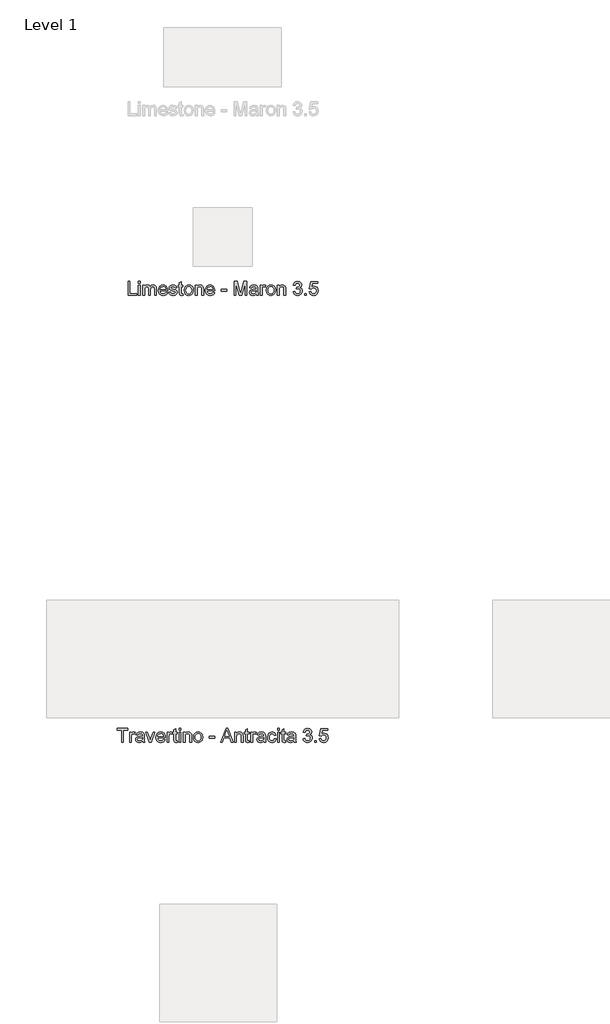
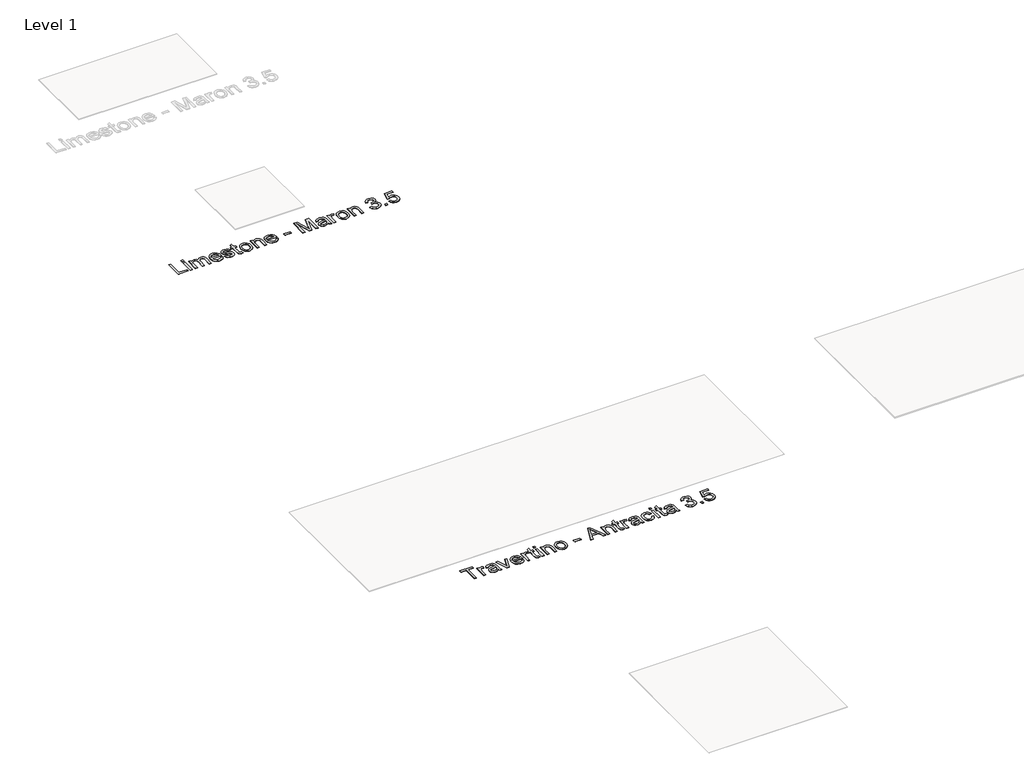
# One storey, part 15 of 80: 2 proxies.
"""IFC4 building model written with IfcOpenShell, lengths in millimetres."""

from ifc_helpers import new_model, si_unit, origin, origin_with_axes, place, context, project, spatial, polyline, outline, extrude, element, save

model = new_model("IFC4")

# Units and contexts
model_context = context("Model", 3, world=origin())
ifc_project = project(units=[si_unit("LENGTHUNIT", "METRE", prefix="MILLI")], contexts=[model_context])

# Site, building, storey
site = spatial("IfcSite", under=ifc_project)
building = spatial("IfcBuilding", under=site)
storey = spatial("IfcBuildingStorey", under=building, Name="Level 1", Elevation=0.0)

# Proxies
placement = place(None, origin())
element("IfcBuildingElementProxy", 1, Name="24\" Arial", ObjectType="24\" Arial", at=placement, inside=storey, context=model_context, shape_type="SweptSolid", body=[
    extrude(outline(polyline([(-27306.7684156, -7628.8780244), (-27306.7684156, -7525.4934091), (-27345.5376464, -7525.4934091), (-27345.5376464, -7510.7241783), (-27253.2299541, -7510.7241783), (-27253.2299541, -7525.4934091), (-27291.9991848, -7525.4934091), (-27291.9991848, -7628.8780244), (-27306.7684156, -7628.8780244)])), origin_with_axes(), (0.0, 0.0, 1.0), 2.0),
    extrude(outline(polyline([(-27238.4607233, -7628.8780244), (-27238.4607233, -7542.1087937), (-27225.5376464, -7542.1087937), (-27225.5376464, -7554.9453321), (-27216.3645694, -7543.1184091), (-27207.1338002, -7540.2626398), (-27192.3068771, -7544.8203321), (-27197.2395694, -7558.0607167), (-27207.6241848, -7555.0318706), (-27215.9751464, -7557.9453321), (-27221.2972617, -7566.0222552), (-27223.6914925, -7583.2722552), (-27223.6914925, -7628.8780244), (-27238.4607233, -7628.8780244)])), origin_with_axes(), (0.0, 0.0, 1.0), 2.0),
    extrude(outline(polyline([(-27127.6914925, -7617.8011014), (-27142.0136079, -7627.8107167), (-27157.8357233, -7630.7241783), (-27170.1782714, -7628.9717744), (-27179.2828387, -7623.7145629), (-27184.8970214, -7615.7313898), (-27186.7684156, -7605.8011014), (-27183.9414925, -7594.1184091), (-27176.5136079, -7585.6376398), (-27166.1722617, -7580.791486), (-27153.3934156, -7578.5703321), (-27127.778031, -7573.4934091), (-27127.6914925, -7570.2049475), (-27131.7588002, -7559.3011014), (-27148.0857233, -7555.0318706), (-27163.028031, -7557.8732167), (-27170.153031, -7567.9549475), (-27184.9222617, -7566.1087937), (-27178.5328387, -7551.6857167), (-27165.6674541, -7543.2337937), (-27146.1818771, -7540.2626398), (-27128.2828387, -7542.8876398), (-27118.1722617, -7549.478986), (-27113.6434156, -7559.5030244), (-27112.9222617, -7572.4261014), (-27112.9222617, -7590.8011014), (-27112.1722617, -7616.4597552), (-27109.2299541, -7628.8780244), (-27123.9991848, -7628.8780244), (-27127.6914925, -7617.8011014)]), holes=[polyline([(-27127.6914925, -7588.2626398), (-27151.5184156, -7592.791486), (-27164.2251464, -7595.1857167), (-27169.9799541, -7599.0799475), (-27171.9991848, -7604.7626398), (-27167.6001464, -7612.7530244), (-27154.6914925, -7615.9549475), (-27139.7491848, -7612.4212937), (-27130.1145694, -7603.8684091), (-27127.778031, -7592.4453321), (-27127.6914925, -7588.2626398)])]), origin_with_axes(), (0.0, 0.0, 1.0), 2.0),
    extrude(outline(polyline([(-27071.3261079, -7628.8780244), (-27101.8453387, -7542.1087937), (-27086.2107233, -7542.1087937), (-27067.7203387, -7594.0895629), (-27062.153031, -7611.5703321), (-27056.7011079, -7595.0703321), (-27038.0953387, -7542.1087937), (-27022.4607233, -7542.1087937), (-27052.6049541, -7628.8780244), (-27071.3261079, -7628.8780244)])), origin_with_axes(), (0.0, 0.0, 1.0), 2.0),
    extrude(outline(polyline([(-26948.7876464, -7603.0318706), (-26934.3068771, -7604.8780244), (-26939.5244252, -7615.7890821), (-26947.8501464, -7623.9453321), (-26959.0965406, -7629.0294667), (-26973.0761079, -7630.7241783), (-26990.4054348, -7627.7998994), (-27003.7395694, -7619.0270629), (-27012.2419733, -7604.9753802), (-27015.0761079, -7586.2145629), (-27012.2131271, -7566.822736), (-27003.6241848, -7552.3203321), (-26990.4703387, -7543.2770629), (-26973.9126464, -7540.2626398), (-26957.8705791, -7543.2698514), (-26945.0520694, -7552.291486), (-26936.6470214, -7566.7650437), (-26933.8453387, -7586.1280244), (-26933.9318771, -7590.1087937), (-27000.3068771, -7590.1087937), (-26997.7503867, -7601.1640821), (-26991.8116848, -7609.291486), (-26983.2407714, -7614.2890821), (-26972.7876464, -7615.9549475), (-26958.3068771, -7612.8684091), (-26948.7876464, -7603.0318706)]), holes=[polyline([(-27000.3068771, -7575.3395629), (-26948.6145694, -7575.3395629), (-26954.528031, -7561.9549475), (-26963.1386079, -7556.7626398), (-26973.9703387, -7555.0318706), (-26992.1578387, -7560.5559091), (-26997.8801944, -7567.0138417), (-27000.3068771, -7575.3395629)])]), origin_with_axes(), (0.0, 0.0, 1.0), 2.0),
    extrude(outline(polyline([(-26919.0761079, -7628.8780244), (-26919.0761079, -7542.1087937), (-26906.153031, -7542.1087937), (-26906.153031, -7554.9453321), (-26896.9799541, -7543.1184091), (-26887.7491848, -7540.2626398), (-26872.9222617, -7544.8203321), (-26877.8549541, -7558.0607167), (-26888.2395694, -7555.0318706), (-26896.590531, -7557.9453321), (-26901.9126464, -7566.0222552), (-26904.3068771, -7583.2722552), (-26904.3068771, -7628.8780244), (-26919.0761079, -7628.8780244)])), origin_with_axes(), (0.0, 0.0, 1.0), 2.0),
    extrude(outline(polyline([(-26832.3068771, -7616.5607167), (-26830.4607233, -7629.3107167), (-26841.5088002, -7630.7241783), (-26853.8838002, -7628.2722552), (-26860.0568771, -7621.8395629), (-26861.8453387, -7605.0799475), (-26861.8453387, -7556.8780244), (-26872.9222617, -7556.8780244), (-26872.9222617, -7542.1087937), (-26861.8453387, -7542.1087937), (-26861.8453387, -7521.0222552), (-26847.0761079, -7512.3395629), (-26847.0761079, -7542.1087937), (-26832.3068771, -7542.1087937), (-26832.3068771, -7556.8780244), (-26847.0761079, -7556.8780244), (-26847.0761079, -7604.6472552), (-26846.2972617, -7612.2626398), (-26843.7732233, -7614.9597552), (-26838.7395694, -7615.9549475), (-26832.3068771, -7616.5607167)])), origin_with_axes(), (0.0, 0.0, 1.0), 2.0),
    extrude(outline(polyline([(-26817.5376464, -7525.4934091), (-26817.5376464, -7510.7241783), (-26802.7684156, -7510.7241783), (-26802.7684156, -7525.4934091), (-26817.5376464, -7525.4934091)])), origin_with_axes(), (0.0, 0.0, 1.0), 2.0),
    extrude(outline(polyline([(-26817.5376464, -7628.8780244), (-26817.5376464, -7542.1087937), (-26802.7684156, -7542.1087937), (-26802.7684156, -7628.8780244), (-26817.5376464, -7628.8780244)])), origin_with_axes(), (0.0, 0.0, 1.0), 2.0),
    extrude(outline(polyline([(-26780.6145694, -7628.8780244), (-26780.6145694, -7542.1087937), (-26765.8453387, -7542.1087937), (-26765.8453387, -7554.2241783), (-26754.5520694, -7543.7530244), (-26739.1338002, -7540.2626398), (-26725.1866848, -7543.0751398), (-26715.6674541, -7550.4597552), (-26711.2395694, -7561.3203321), (-26710.4607233, -7575.5991783), (-26710.4607233, -7628.8780244), (-26725.2299541, -7628.8780244), (-26725.2299541, -7577.5895629), (-26726.9318771, -7564.5222552), (-26732.9463002, -7557.6136014), (-26743.0857233, -7555.0318706), (-26759.1097617, -7560.8299475), (-26764.1614444, -7569.2313898), (-26765.8453387, -7582.8395629), (-26765.8453387, -7628.8780244), (-26780.6145694, -7628.8780244)])), origin_with_axes(), (0.0, 0.0, 1.0), 2.0),
    extrude(outline(polyline([(-26693.8453387, -7585.4934091), (-26690.6506271, -7564.572736), (-26681.0664925, -7549.8684091), (-26669.2251464, -7542.6640821), (-26655.0472617, -7540.2626398), (-26639.5316367, -7543.1869187), (-26627.1386079, -7551.9597552), (-26619.0148098, -7565.8888417), (-26616.3068771, -7584.2818706), (-26621.0953387, -7610.5607167), (-26635.0424541, -7625.4309091), (-26655.0472617, -7630.7241783), (-26670.7503867, -7627.8107167), (-26683.1289925, -7619.0703321), (-26691.1662521, -7604.8491783), (-26693.8453387, -7585.4934091)]), holes=[polyline([(-26679.0761079, -7585.4645629), (-26677.3669733, -7598.8311494), (-26672.2395694, -7608.353986), (-26664.5232233, -7614.0547071), (-26655.0472617, -7615.9549475), (-26645.6145694, -7614.0438898), (-26637.9126464, -7608.3107167), (-26632.7852425, -7598.6616783), (-26631.0761079, -7585.0030244), (-26632.7960598, -7572.025861), (-26637.9559156, -7562.6328321), (-26645.668656, -7556.932111), (-26655.0472617, -7555.0318706), (-26664.5232233, -7556.9248994), (-26672.2395694, -7562.603986), (-26677.3669733, -7572.1051879), (-26679.0761079, -7585.4645629)])]), origin_with_axes(), (0.0, 0.0, 1.0), 2.0),
    extrude(outline(polyline([(-26560.9222617, -7593.8011014), (-26560.9222617, -7579.0318706), (-26514.7684156, -7579.0318706), (-26514.7684156, -7593.8011014), (-26560.9222617, -7593.8011014)])), origin_with_axes(), (0.0, 0.0, 1.0), 2.0),
    extrude(outline(polyline([(-26463.9126464, -7628.8780244), (-26416.7491848, -7510.7241783), (-26404.1722617, -7510.7241783), (-26357.0088002, -7628.8780244), (-26372.6145694, -7628.8780244), (-26386.1434156, -7591.9549475), (-26434.8068771, -7591.9549475), (-26448.3068771, -7628.8780244), (-26463.9126464, -7628.8780244)]), holes=[polyline([(-26429.3838002, -7577.1857167), (-26391.5376464, -7577.1857167), (-26402.1818771, -7548.1376398), (-26410.4607233, -7525.4934091), (-26417.8164925, -7545.5991783), (-26429.3838002, -7577.1857167)])]), origin_with_axes(), (0.0, 0.0, 1.0), 2.0),
    extrude(outline(polyline([(-26343.0761079, -7628.8780244), (-26343.0761079, -7542.1087937), (-26328.3068771, -7542.1087937), (-26328.3068771, -7554.2241783), (-26317.0136079, -7543.7530244), (-26301.5953387, -7540.2626398), (-26287.6482233, -7543.0751398), (-26278.1289925, -7550.4597552), (-26273.7011079, -7561.3203321), (-26272.9222617, -7575.5991783), (-26272.9222617, -7628.8780244), (-26287.6914925, -7628.8780244), (-26287.6914925, -7577.5895629), (-26289.3934156, -7564.5222552), (-26295.4078387, -7557.6136014), (-26305.5472617, -7555.0318706), (-26321.5713002, -7560.8299475), (-26326.6229829, -7569.2313898), (-26328.3068771, -7582.8395629), (-26328.3068771, -7628.8780244), (-26343.0761079, -7628.8780244)])), origin_with_axes(), (0.0, 0.0, 1.0), 2.0),
    extrude(outline(polyline([(-26221.2299541, -7616.5607167), (-26219.3838002, -7629.3107167), (-26230.4318771, -7630.7241783), (-26242.8068771, -7628.2722552), (-26248.9799541, -7621.8395629), (-26250.7684156, -7605.0799475), (-26250.7684156, -7556.8780244), (-26261.8453387, -7556.8780244), (-26261.8453387, -7542.1087937), (-26250.7684156, -7542.1087937), (-26250.7684156, -7521.0222552), (-26235.9991848, -7512.3395629), (-26235.9991848, -7542.1087937), (-26221.2299541, -7542.1087937), (-26221.2299541, -7556.8780244), (-26235.9991848, -7556.8780244), (-26235.9991848, -7604.6472552), (-26235.2203387, -7612.2626398), (-26232.6963002, -7614.9597552), (-26227.6626464, -7615.9549475), (-26221.2299541, -7616.5607167)])), origin_with_axes(), (0.0, 0.0, 1.0), 2.0),
    extrude(outline(polyline([(-26206.4607233, -7628.8780244), (-26206.4607233, -7542.1087937), (-26193.5376464, -7542.1087937), (-26193.5376464, -7554.9453321), (-26184.3645694, -7543.1184091), (-26175.1338002, -7540.2626398), (-26160.3068771, -7544.8203321), (-26165.2395694, -7558.0607167), (-26175.6241848, -7555.0318706), (-26183.9751464, -7557.9453321), (-26189.2972617, -7566.0222552), (-26191.6914925, -7583.2722552), (-26191.6914925, -7628.8780244), (-26206.4607233, -7628.8780244)])), origin_with_axes(), (0.0, 0.0, 1.0), 2.0),
    extrude(outline(polyline([(-26095.6914925, -7617.8011014), (-26110.0136079, -7627.8107167), (-26125.8357233, -7630.7241783), (-26138.1782714, -7628.9717744), (-26147.2828387, -7623.7145629), (-26152.8970214, -7615.7313898), (-26154.7684156, -7605.8011014), (-26151.9414925, -7594.1184091), (-26144.5136079, -7585.6376398), (-26134.1722617, -7580.791486), (-26121.3934156, -7578.5703321), (-26095.778031, -7573.4934091), (-26095.6914925, -7570.2049475), (-26099.7588002, -7559.3011014), (-26116.0857233, -7555.0318706), (-26131.028031, -7557.8732167), (-26138.153031, -7567.9549475), (-26152.9222617, -7566.1087937), (-26146.5328387, -7551.6857167), (-26133.6674541, -7543.2337937), (-26114.1818771, -7540.2626398), (-26096.2828387, -7542.8876398), (-26086.1722617, -7549.478986), (-26081.6434156, -7559.5030244), (-26080.9222617, -7572.4261014), (-26080.9222617, -7590.8011014), (-26080.1722617, -7616.4597552), (-26077.2299541, -7628.8780244), (-26091.9991848, -7628.8780244), (-26095.6914925, -7617.8011014)]), holes=[polyline([(-26095.6914925, -7588.2626398), (-26119.5184156, -7592.791486), (-26132.2251464, -7595.1857167), (-26137.9799541, -7599.0799475), (-26139.9991848, -7604.7626398), (-26135.6001464, -7612.7530244), (-26122.6914925, -7615.9549475), (-26107.7491848, -7612.4212937), (-26098.1145694, -7603.8684091), (-26095.778031, -7592.4453321), (-26095.6914925, -7588.2626398)])]), origin_with_axes(), (0.0, 0.0, 1.0), 2.0),
    extrude(outline(polyline([(-26005.2299541, -7597.4934091), (-25990.4607233, -7599.3395629), (-25994.5785117, -7612.4753802), (-26002.3164925, -7622.4020629), (-26012.9463002, -7628.6436494), (-26025.7395694, -7630.7241783), (-26041.449906, -7627.8215341), (-26053.7347617, -7619.1136014), (-26061.6638483, -7604.9825917), (-26064.3068771, -7585.8107167), (-26059.7924541, -7561.2770629), (-26054.0953387, -7552.0787456), (-26046.0328387, -7545.5126398), (-26025.9414925, -7540.2626398), (-26013.4619252, -7542.0655244), (-26003.4847617, -7547.4741783), (-25996.3273098, -7556.2001398), (-25992.3068771, -7567.9549475), (-26007.0761079, -7569.8011014), (-26013.9270694, -7558.7386014), (-26025.8261079, -7555.0318706), (-26035.3705791, -7556.8563898), (-26042.9463002, -7562.3299475), (-26047.8898098, -7571.7482167), (-26049.5376464, -7585.4068706), (-26047.9258675, -7599.2494187), (-26043.090531, -7608.7001398), (-26035.6518291, -7614.1412456), (-26026.2299541, -7615.9549475), (-26012.3116848, -7611.4261014), (-26005.2299541, -7597.4934091)])), origin_with_axes(), (0.0, 0.0, 1.0), 2.0),
    extrude(outline(polyline([(-25977.5376464, -7525.4934091), (-25977.5376464, -7510.7241783), (-25962.7684156, -7510.7241783), (-25962.7684156, -7525.4934091), (-25977.5376464, -7525.4934091)])), origin_with_axes(), (0.0, 0.0, 1.0), 2.0),
    extrude(outline(polyline([(-25977.5376464, -7628.8780244), (-25977.5376464, -7542.1087937), (-25962.7684156, -7542.1087937), (-25962.7684156, -7628.8780244), (-25977.5376464, -7628.8780244)])), origin_with_axes(), (0.0, 0.0, 1.0), 2.0),
    extrude(outline(polyline([(-25909.2299541, -7616.5607167), (-25907.3838002, -7629.3107167), (-25918.4318771, -7630.7241783), (-25930.8068771, -7628.2722552), (-25936.9799541, -7621.8395629), (-25938.7684156, -7605.0799475), (-25938.7684156, -7556.8780244), (-25949.8453387, -7556.8780244), (-25949.8453387, -7542.1087937), (-25938.7684156, -7542.1087937), (-25938.7684156, -7521.0222552), (-25923.9991848, -7512.3395629), (-25923.9991848, -7542.1087937), (-25909.2299541, -7542.1087937), (-25909.2299541, -7556.8780244), (-25923.9991848, -7556.8780244), (-25923.9991848, -7604.6472552), (-25923.2203387, -7612.2626398), (-25920.6963002, -7614.9597552), (-25915.6626464, -7615.9549475), (-25909.2299541, -7616.5607167)])), origin_with_axes(), (0.0, 0.0, 1.0), 2.0),
    extrude(outline(polyline([(-25839.0761079, -7617.8011014), (-25853.3982233, -7627.8107167), (-25869.2203387, -7630.7241783), (-25881.5628867, -7628.9717744), (-25890.6674541, -7623.7145629), (-25896.2816367, -7615.7313898), (-25898.153031, -7605.8011014), (-25895.3261079, -7594.1184091), (-25887.8982233, -7585.6376398), (-25877.5568771, -7580.791486), (-25864.778031, -7578.5703321), (-25839.1626464, -7573.4934091), (-25839.0761079, -7570.2049475), (-25843.1434156, -7559.3011014), (-25859.4703387, -7555.0318706), (-25874.4126464, -7557.8732167), (-25881.5376464, -7567.9549475), (-25896.3068771, -7566.1087937), (-25889.9174541, -7551.6857167), (-25877.0520694, -7543.2337937), (-25857.5664925, -7540.2626398), (-25839.6674541, -7542.8876398), (-25829.5568771, -7549.478986), (-25825.028031, -7559.5030244), (-25824.3068771, -7572.4261014), (-25824.3068771, -7590.8011014), (-25823.5568771, -7616.4597552), (-25820.6145694, -7628.8780244), (-25835.3838002, -7628.8780244), (-25839.0761079, -7617.8011014)]), holes=[polyline([(-25839.0761079, -7588.2626398), (-25862.903031, -7592.791486), (-25875.6097617, -7595.1857167), (-25881.3645694, -7599.0799475), (-25883.3838002, -7604.7626398), (-25878.9847617, -7612.7530244), (-25866.0761079, -7615.9549475), (-25851.1338002, -7612.4212937), (-25841.4991848, -7603.8684091), (-25839.1626464, -7592.4453321), (-25839.0761079, -7588.2626398)])]), origin_with_axes(), (0.0, 0.0, 1.0), 2.0),
    extrude(outline(polyline([(-25761.5376464, -7597.4934091), (-25746.7684156, -7595.6472552), (-25738.6193771, -7611.1953321), (-25723.3741848, -7615.9549475), (-25713.2491848, -7614.3179283), (-25705.4318771, -7609.4068706), (-25700.434281, -7602.0799475), (-25698.7684156, -7593.1953321), (-25700.4198579, -7584.7614379), (-25705.3741848, -7577.9212937), (-25712.8741848, -7573.3888417), (-25722.1626464, -7571.8780244), (-25732.5184156, -7573.4934091), (-25730.8741848, -7558.7241783), (-25728.5088002, -7558.8972552), (-25711.7491848, -7554.6568706), (-25706.1674541, -7549.2770629), (-25704.3068771, -7541.6184091), (-25709.7011079, -7530.0655244), (-25723.6049541, -7525.4934091), (-25737.6818771, -7530.1087937), (-25744.9222617, -7543.9549475), (-25759.6914925, -7542.1087937), (-25755.3429348, -7528.8467744), (-25747.6049541, -7518.9453321), (-25737.0184156, -7512.7794667), (-25724.1241848, -7510.7241783), (-25706.3116848, -7514.7770629), (-25693.8501464, -7525.853986), (-25689.5376464, -7540.7530244), (-25693.6338002, -7554.3684091), (-25705.7491848, -7564.1472552), (-25696.5039925, -7567.8828321), (-25689.653031, -7574.2434091), (-25685.4126464, -7582.8828321), (-25683.9991848, -7593.4549475), (-25686.8261079, -7607.8491783), (-25695.3068771, -7619.8780244), (-25708.1073579, -7628.0126398), (-25723.8934156, -7630.7241783), (-25738.1722617, -7628.4092744), (-25749.7972617, -7621.4645629), (-25757.8813964, -7610.8419667), (-25761.5376464, -7597.4934091)])), origin_with_axes(), (0.0, 0.0, 1.0), 2.0),
    extrude(outline(polyline([(-25663.6914925, -7628.8780244), (-25663.6914925, -7614.1087937), (-25648.9222617, -7614.1087937), (-25648.9222617, -7628.8780244), (-25663.6914925, -7628.8780244)])), origin_with_axes(), (0.0, 0.0, 1.0), 2.0),
    extrude(outline(polyline([(-25624.9222617, -7597.4934091), (-25610.153031, -7595.6472552), (-25602.7107233, -7610.8636014), (-25587.278031, -7615.9549475), (-25576.6914925, -7614.1845148), (-25568.7588002, -7608.8732167), (-25563.8044733, -7600.6340341), (-25562.153031, -7590.0799475), (-25563.699906, -7580.1424475), (-25568.340531, -7572.541486), (-25576.1109637, -7567.7169667), (-25587.0472617, -7566.1087937), (-25600.0136079, -7568.6761014), (-25608.3068771, -7575.3395629), (-25623.0761079, -7573.4934091), (-25610.153031, -7512.5703321), (-25552.9222617, -7512.5703321), (-25552.9222617, -7527.3395629), (-25598.2107233, -7527.3395629), (-25604.528031, -7559.8780244), (-25593.9775502, -7553.4741783), (-25582.9222617, -7551.3395629), (-25569.1229829, -7553.9861975), (-25557.6674541, -7561.9261014), (-25549.9547137, -7574.0270629), (-25547.3838002, -7589.1568706), (-25549.6987041, -7603.9261014), (-25556.6434156, -7616.5607167), (-25569.9414925, -7627.1833129), (-25587.3357233, -7630.7241783), (-25601.8417329, -7628.4489379), (-25613.3982233, -7621.6232167), (-25621.3200983, -7611.0402841), (-25624.9222617, -7597.4934091)])), origin_with_axes(), (0.0, 0.0, 1.0), 2.0),
])
element("IfcBuildingElementProxy", 2, Name="24\" Arial", ObjectType="24\" Arial", at=placement, inside=storey, context=model_context, shape_type="SweptSolid", body=[
    extrude(outline(polyline([(-27251.3838002, -3823.131793), (-27251.3838002, -3704.9779468), (-27236.6145694, -3704.9779468), (-27236.6145694, -3808.3625622), (-27177.5376464, -3808.3625622), (-27177.5376464, -3823.131793), (-27251.3838002, -3823.131793)])), origin_with_axes(), (0.0, 0.0, 1.0), 2.0),
    extrude(outline(polyline([(-27162.7684156, -3719.7471776), (-27162.7684156, -3704.9779468), (-27147.9991848, -3704.9779468), (-27147.9991848, -3719.7471776), (-27162.7684156, -3719.7471776)])), origin_with_axes(), (0.0, 0.0, 1.0), 2.0),
    extrude(outline(polyline([(-27162.7684156, -3823.131793), (-27162.7684156, -3736.3625622), (-27147.9991848, -3736.3625622), (-27147.9991848, -3823.131793), (-27162.7684156, -3823.131793)])), origin_with_axes(), (0.0, 0.0, 1.0), 2.0),
    extrude(outline(polyline([(-27125.8453387, -3823.131793), (-27125.8453387, -3736.3625622), (-27111.0761079, -3736.3625622), (-27111.0761079, -3750.6414084), (-27100.9222617, -3738.944293), (-27086.4703387, -3734.5164084), (-27071.6722617, -3739.0308314), (-27063.5376464, -3751.6798699), (-27052.0136079, -3738.8072737), (-27037.4607233, -3734.5164084), (-27026.3585598, -3736.3012641), (-27018.1482233, -3741.6558314), (-27013.074906, -3750.724341), (-27011.3838002, -3763.6510237), (-27011.3838002, -3823.131793), (-27026.153031, -3823.131793), (-27026.153031, -3769.9971776), (-27027.5232233, -3757.6654468), (-27032.4847617, -3751.5933314), (-27040.9222617, -3749.2856391), (-27048.9234637, -3750.7640045), (-27055.4463002, -3755.1991007), (-27059.7840406, -3762.8938122), (-27061.2299541, -3774.1510237), (-27061.2299541, -3823.131793), (-27075.9991848, -3823.131793), (-27075.9991848, -3768.3529468), (-27079.4174541, -3754.0452545), (-27090.6241848, -3749.2856391), (-27101.5568771, -3752.458716), (-27108.8261079, -3761.7471776), (-27111.0761079, -3779.3721776), (-27111.0761079, -3823.131793), (-27125.8453387, -3823.131793)])), origin_with_axes(), (0.0, 0.0, 1.0), 2.0),
    extrude(outline(polyline([(-26928.4799541, -3797.2856391), (-26913.9991848, -3799.131793), (-26919.2167329, -3810.0428507), (-26927.5424541, -3818.1991007), (-26938.7888483, -3823.2832353), (-26952.7684156, -3824.9779468), (-26970.0977425, -3822.053668), (-26983.4318771, -3813.2808314), (-26991.934281, -3799.2291487), (-26994.7684156, -3780.4683314), (-26991.9054348, -3761.0765045), (-26983.3164925, -3746.5741007), (-26970.1626464, -3737.5308314), (-26953.6049541, -3734.5164084), (-26937.5628867, -3737.5236199), (-26924.7443771, -3746.5452545), (-26916.3393291, -3761.0188122), (-26913.5376464, -3780.381793), (-26913.6241848, -3784.3625622), (-26979.9991848, -3784.3625622), (-26977.4426944, -3795.4178507), (-26971.5039925, -3803.5452545), (-26962.9330791, -3808.5428507), (-26952.4799541, -3810.208716), (-26937.9991848, -3807.1221776), (-26928.4799541, -3797.2856391)]), holes=[polyline([(-26979.9991848, -3769.5933314), (-26928.3068771, -3769.5933314), (-26934.2203387, -3756.208716), (-26942.8309156, -3751.0164084), (-26953.6626464, -3749.2856391), (-26971.8501464, -3754.8096776), (-26977.5725021, -3761.2676103), (-26979.9991848, -3769.5933314)])]), origin_with_axes(), (0.0, 0.0, 1.0), 2.0),
    extrude(outline(polyline([(-26904.3068771, -3797.2856391), (-26889.5376464, -3795.4394853), (-26882.7011079, -3806.4010237), (-26867.0376464, -3810.208716), (-26851.9799541, -3806.7183314), (-26847.0761079, -3798.5260237), (-26852.0088002, -3791.8914084), (-26867.2107233, -3787.6798699), (-26889.4511079, -3780.4539084), (-26899.1578387, -3772.0164084), (-26902.4607233, -3760.1029468), (-26899.8068771, -3749.0981391), (-26892.5664925, -3740.6894853), (-26883.1770694, -3736.319293), (-26870.4703387, -3734.5164084), (-26852.4991848, -3737.4154468), (-26841.0761079, -3745.2616007), (-26835.9991848, -3758.5164084), (-26850.7684156, -3760.3625622), (-26856.3213002, -3752.2135237), (-26869.3164925, -3749.2856391), (-26883.4511079, -3752.083716), (-26887.6914925, -3758.6029468), (-26885.9318771, -3762.9010237), (-26880.4222617, -3766.1606391), (-26867.7011079, -3769.3048699), (-26846.0232233, -3776.256793), (-26835.9559156, -3784.131793), (-26832.3068771, -3796.9683314), (-26836.590531, -3811.1029468), (-26848.9511079, -3821.3577545), (-26867.2395694, -3824.9779468), (-26882.1313964, -3823.2327545), (-26892.9991848, -3817.9971776), (-26900.2539925, -3809.3289084), (-26904.3068771, -3797.2856391)])), origin_with_axes(), (0.0, 0.0, 1.0), 2.0),
    extrude(outline(polyline([(-26784.3068771, -3810.8144853), (-26782.4607233, -3823.5644853), (-26793.5088002, -3824.9779468), (-26805.8838002, -3822.5260237), (-26812.0568771, -3816.0933314), (-26813.8453387, -3799.333716), (-26813.8453387, -3751.131793), (-26824.9222617, -3751.131793), (-26824.9222617, -3736.3625622), (-26813.8453387, -3736.3625622), (-26813.8453387, -3715.2760237), (-26799.0761079, -3706.5933314), (-26799.0761079, -3736.3625622), (-26784.3068771, -3736.3625622), (-26784.3068771, -3751.131793), (-26799.0761079, -3751.131793), (-26799.0761079, -3798.9010237), (-26798.2972617, -3806.5164084), (-26795.7732233, -3809.2135237), (-26790.7395694, -3810.208716), (-26784.3068771, -3810.8144853)])), origin_with_axes(), (0.0, 0.0, 1.0), 2.0),
    extrude(outline(polyline([(-26773.2299541, -3779.7471776), (-26770.0352425, -3758.8265045), (-26760.4511079, -3744.1221776), (-26748.6097617, -3736.9178507), (-26734.4318771, -3734.5164084), (-26718.9162521, -3737.4406872), (-26706.5232233, -3746.2135237), (-26698.3994252, -3760.1426103), (-26695.6914925, -3778.5356391), (-26700.4799541, -3804.8144853), (-26714.4270694, -3819.6846776), (-26734.4318771, -3824.9779468), (-26750.1350021, -3822.0644853), (-26762.5136079, -3813.3241007), (-26770.5508675, -3799.1029468), (-26773.2299541, -3779.7471776)]), holes=[polyline([(-26758.4607233, -3779.7183314), (-26756.7515887, -3793.084918), (-26751.6241848, -3802.6077545), (-26743.9078387, -3808.3084757), (-26734.4318771, -3810.208716), (-26724.9991848, -3808.2976584), (-26717.2972617, -3802.5644853), (-26712.1698579, -3792.9154468), (-26710.4607233, -3779.256793), (-26712.1806752, -3766.2796295), (-26717.340531, -3756.8866007), (-26725.0532714, -3751.1858795), (-26734.4318771, -3749.2856391), (-26743.9078387, -3751.178668), (-26751.6241848, -3756.8577545), (-26756.7515887, -3766.3589564), (-26758.4607233, -3779.7183314)])]), origin_with_axes(), (0.0, 0.0, 1.0), 2.0),
    extrude(outline(polyline([(-26679.0761079, -3823.131793), (-26679.0761079, -3736.3625622), (-26664.3068771, -3736.3625622), (-26664.3068771, -3748.4779468), (-26653.0136079, -3738.006793), (-26637.5953387, -3734.5164084), (-26623.6482233, -3737.3289084), (-26614.1289925, -3744.7135237), (-26609.7011079, -3755.5741007), (-26608.9222617, -3769.8529468), (-26608.9222617, -3823.131793), (-26623.6914925, -3823.131793), (-26623.6914925, -3771.8433314), (-26625.3934156, -3758.7760237), (-26631.4078387, -3751.8673699), (-26641.5472617, -3749.2856391), (-26657.5713002, -3755.083716), (-26662.6229829, -3763.4851584), (-26664.3068771, -3777.0933314), (-26664.3068771, -3823.131793), (-26679.0761079, -3823.131793)])), origin_with_axes(), (0.0, 0.0, 1.0), 2.0),
    extrude(outline(polyline([(-26527.8645694, -3797.2856391), (-26513.3838002, -3799.131793), (-26518.6013483, -3810.0428507), (-26526.9270694, -3818.1991007), (-26538.1734637, -3823.2832353), (-26552.153031, -3824.9779468), (-26569.4823579, -3822.053668), (-26582.8164925, -3813.2808314), (-26591.3188964, -3799.2291487), (-26594.153031, -3780.4683314), (-26591.2900502, -3761.0765045), (-26582.7011079, -3746.5741007), (-26569.5472617, -3737.5308314), (-26552.9895694, -3734.5164084), (-26536.9475021, -3737.5236199), (-26524.1289925, -3746.5452545), (-26515.7239444, -3761.0188122), (-26512.9222617, -3780.381793), (-26513.0088002, -3784.3625622), (-26579.3838002, -3784.3625622), (-26576.8273098, -3795.4178507), (-26570.8886079, -3803.5452545), (-26562.3176944, -3808.5428507), (-26551.8645694, -3810.208716), (-26537.3838002, -3807.1221776), (-26527.8645694, -3797.2856391)]), holes=[polyline([(-26579.3838002, -3769.5933314), (-26527.6914925, -3769.5933314), (-26533.6049541, -3756.208716), (-26542.215531, -3751.0164084), (-26553.0472617, -3749.2856391), (-26571.2347617, -3754.8096776), (-26576.9571175, -3761.2676103), (-26579.3838002, -3769.5933314)])]), origin_with_axes(), (0.0, 0.0, 1.0), 2.0),
    extrude(outline(polyline([(-26459.3838002, -3788.0548699), (-26459.3838002, -3773.2856391), (-26413.2299541, -3773.2856391), (-26413.2299541, -3788.0548699), (-26459.3838002, -3788.0548699)])), origin_with_axes(), (0.0, 0.0, 1.0), 2.0),
    extrude(outline(polyline([(-26348.6145694, -3823.131793), (-26348.6145694, -3704.9779468), (-26323.2011079, -3704.9779468), (-26299.028031, -3788.256793), (-26294.153031, -3805.6510237), (-26288.8741848, -3786.8144853), (-26265.1049541, -3704.9779468), (-26239.6914925, -3704.9779468), (-26239.6914925, -3823.131793), (-26254.4607233, -3823.131793), (-26254.4607233, -3719.7471776), (-26284.1434156, -3823.131793), (-26304.1626464, -3823.131793), (-26333.8453387, -3719.7471776), (-26333.8453387, -3823.131793), (-26348.6145694, -3823.131793)])), origin_with_axes(), (0.0, 0.0, 1.0), 2.0),
    extrude(outline(polyline([(-26160.3068771, -3812.0548699), (-26174.6289925, -3822.0644853), (-26190.4511079, -3824.9779468), (-26202.793656, -3823.225543), (-26211.8982233, -3817.9683314), (-26217.512406, -3809.9851584), (-26219.3838002, -3800.0548699), (-26216.5568771, -3788.3721776), (-26209.1289925, -3779.8914084), (-26198.7876464, -3775.0452545), (-26186.0088002, -3772.8241007), (-26160.3934156, -3767.7471776), (-26160.3068771, -3764.458716), (-26164.3741848, -3753.5548699), (-26180.7011079, -3749.2856391), (-26195.6434156, -3752.1269853), (-26202.7684156, -3762.208716), (-26217.5376464, -3760.3625622), (-26211.1482233, -3745.9394853), (-26198.2828387, -3737.4875622), (-26178.7972617, -3734.5164084), (-26160.8982233, -3737.1414084), (-26150.7876464, -3743.7327545), (-26146.2588002, -3753.756793), (-26145.5376464, -3766.6798699), (-26145.5376464, -3785.0548699), (-26144.7876464, -3810.7135237), (-26141.8453387, -3823.131793), (-26156.6145694, -3823.131793), (-26160.3068771, -3812.0548699)]), holes=[polyline([(-26160.3068771, -3782.5164084), (-26184.1338002, -3787.0452545), (-26196.840531, -3789.4394853), (-26202.5953387, -3793.333716), (-26204.6145694, -3799.0164084), (-26200.215531, -3807.006793), (-26187.3068771, -3810.208716), (-26172.3645694, -3806.6750622), (-26162.7299541, -3798.1221776), (-26160.3934156, -3786.6991007), (-26160.3068771, -3782.5164084)])]), origin_with_axes(), (0.0, 0.0, 1.0), 2.0),
    extrude(outline(polyline([(-26125.2299541, -3823.131793), (-26125.2299541, -3736.3625622), (-26112.3068771, -3736.3625622), (-26112.3068771, -3749.1991007), (-26103.1338002, -3737.3721776), (-26093.903031, -3734.5164084), (-26079.0761079, -3739.0741007), (-26084.0088002, -3752.3144853), (-26094.3934156, -3749.2856391), (-26102.7443771, -3752.1991007), (-26108.0664925, -3760.2760237), (-26110.4607233, -3777.5260237), (-26110.4607233, -3823.131793), (-26125.2299541, -3823.131793)])), origin_with_axes(), (0.0, 0.0, 1.0), 2.0),
    extrude(outline(polyline([(-26073.5376464, -3779.7471776), (-26070.3429348, -3758.8265045), (-26060.7588002, -3744.1221776), (-26048.9174541, -3736.9178507), (-26034.7395694, -3734.5164084), (-26019.2239444, -3737.4406872), (-26006.8309156, -3746.2135237), (-25998.7071175, -3760.1426103), (-25995.9991848, -3778.5356391), (-26000.7876464, -3804.8144853), (-26014.7347617, -3819.6846776), (-26034.7395694, -3824.9779468), (-26050.4426944, -3822.0644853), (-26062.8213002, -3813.3241007), (-26070.8585598, -3799.1029468), (-26073.5376464, -3779.7471776)]), holes=[polyline([(-26058.7684156, -3779.7183314), (-26057.059281, -3793.084918), (-26051.9318771, -3802.6077545), (-26044.215531, -3808.3084757), (-26034.7395694, -3810.208716), (-26025.3068771, -3808.2976584), (-26017.6049541, -3802.5644853), (-26012.4775502, -3792.9154468), (-26010.7684156, -3779.256793), (-26012.4883675, -3766.2796295), (-26017.6482233, -3756.8866007), (-26025.3609637, -3751.1858795), (-26034.7395694, -3749.2856391), (-26044.215531, -3751.178668), (-26051.9318771, -3756.8577545), (-26057.059281, -3766.3589564), (-26058.7684156, -3779.7183314)])]), origin_with_axes(), (0.0, 0.0, 1.0), 2.0),
    extrude(outline(polyline([(-25979.3838002, -3823.131793), (-25979.3838002, -3736.3625622), (-25964.6145694, -3736.3625622), (-25964.6145694, -3748.4779468), (-25953.3213002, -3738.006793), (-25937.903031, -3734.5164084), (-25923.9559156, -3737.3289084), (-25914.4366848, -3744.7135237), (-25910.0088002, -3755.5741007), (-25909.2299541, -3769.8529468), (-25909.2299541, -3823.131793), (-25923.9991848, -3823.131793), (-25923.9991848, -3771.8433314), (-25925.7011079, -3758.7760237), (-25931.715531, -3751.8673699), (-25941.8549541, -3749.2856391), (-25957.8789925, -3755.083716), (-25962.9306752, -3763.4851584), (-25964.6145694, -3777.0933314), (-25964.6145694, -3823.131793), (-25979.3838002, -3823.131793)])), origin_with_axes(), (0.0, 0.0, 1.0), 2.0),
    extrude(outline(polyline([(-25846.4607233, -3791.7471776), (-25831.6914925, -3789.9010237), (-25823.5424541, -3805.4491007), (-25808.2972617, -3810.208716), (-25798.1722617, -3808.5716968), (-25790.3549541, -3803.6606391), (-25785.3573579, -3796.333716), (-25783.6914925, -3787.4491007), (-25785.3429348, -3779.0152064), (-25790.2972617, -3772.1750622), (-25797.7972617, -3767.6426103), (-25807.0857233, -3766.131793), (-25817.4414925, -3767.7471776), (-25815.7972617, -3752.9779468), (-25813.4318771, -3753.1510237), (-25796.6722617, -3748.9106391), (-25791.090531, -3743.5308314), (-25789.2299541, -3735.8721776), (-25794.6241848, -3724.319293), (-25808.528031, -3719.7471776), (-25822.6049541, -3724.3625622), (-25829.8453387, -3738.208716), (-25844.6145694, -3736.3625622), (-25840.2660117, -3723.100543), (-25832.528031, -3713.1991007), (-25821.9414925, -3707.0332353), (-25809.0472617, -3704.9779468), (-25791.2347617, -3709.0308314), (-25778.7732233, -3720.1077545), (-25774.4607233, -3735.006793), (-25778.5568771, -3748.6221776), (-25790.6722617, -3758.4010237), (-25781.4270694, -3762.1366007), (-25774.5761079, -3768.4971776), (-25770.3357233, -3777.1366007), (-25768.9222617, -3787.708716), (-25771.7491848, -3802.1029468), (-25780.2299541, -3814.131793), (-25793.0304348, -3822.2664084), (-25808.8164925, -3824.9779468), (-25823.0953387, -3822.663043), (-25834.7203387, -3815.7183314), (-25842.8044733, -3805.0957353), (-25846.4607233, -3791.7471776)])), origin_with_axes(), (0.0, 0.0, 1.0), 2.0),
    extrude(outline(polyline([(-25748.6145694, -3823.131793), (-25748.6145694, -3808.3625622), (-25733.8453387, -3808.3625622), (-25733.8453387, -3823.131793), (-25748.6145694, -3823.131793)])), origin_with_axes(), (0.0, 0.0, 1.0), 2.0),
    extrude(outline(polyline([(-25709.8453387, -3791.7471776), (-25695.0761079, -3789.9010237), (-25687.6338002, -3805.1173699), (-25672.2011079, -3810.208716), (-25661.6145694, -3808.4382834), (-25653.6818771, -3803.1269853), (-25648.7275502, -3794.8878026), (-25647.0761079, -3784.333716), (-25648.6229829, -3774.396216), (-25653.2636079, -3766.7952545), (-25661.0340406, -3761.9707353), (-25671.9703387, -3760.3625622), (-25684.9366848, -3762.9298699), (-25693.2299541, -3769.5933314), (-25707.9991848, -3767.7471776), (-25695.0761079, -3706.8241007), (-25637.8453387, -3706.8241007), (-25637.8453387, -3721.5933314), (-25683.1338002, -3721.5933314), (-25689.4511079, -3754.131793), (-25678.9006271, -3747.7279468), (-25667.8453387, -3745.5933314), (-25654.0460598, -3748.239966), (-25642.590531, -3756.1798699), (-25634.8777906, -3768.2808314), (-25632.3068771, -3783.4106391), (-25634.621781, -3798.1798699), (-25641.5664925, -3810.8144853), (-25654.8645694, -3821.4370814), (-25672.2588002, -3824.9779468), (-25686.7648098, -3822.7027064), (-25698.3213002, -3815.8769853), (-25706.2431752, -3805.2940526), (-25709.8453387, -3791.7471776)])), origin_with_axes(), (0.0, 0.0, 1.0), 2.0),
])

save(model, "model.ifc")
